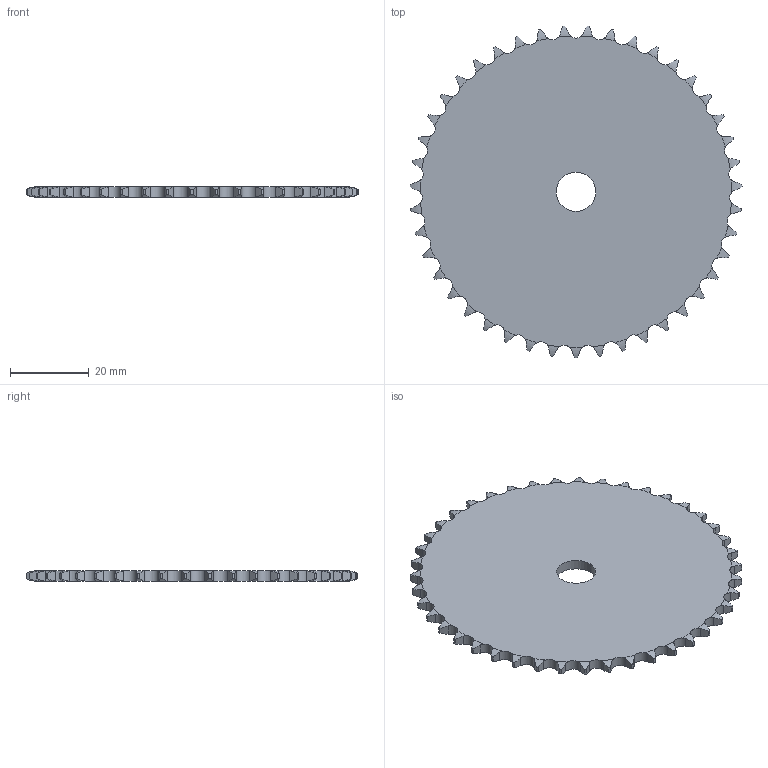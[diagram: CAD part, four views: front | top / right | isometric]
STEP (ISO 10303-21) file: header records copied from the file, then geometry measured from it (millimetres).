
FILE_DESCRIPTION((''),'2;1');
FILE_NAME('500-061-0043_PRT','2021-02-12T',('Brieden'),('Brieden'),'PRO/ENGINEER BY PARAMETRIC TECHNOLOGY CORPORATION, 2010160','PRO/ENGINEER BY PARAMETRIC TECHNOLOGY CORPORATION, 2010160','');
FILE_SCHEMA(('AUTOMOTIVE_DESIGN { 1 0 10303 214 1 1 1 1 }'));
Length unit declared in the file: millimetre
Products named in the file (1): 500-061-0043_PRT
Bounding box: 84.38 x 84.33 x 2.6 mm (x, y, z)
Volume: 12952.4 mm3; surface area: 11012.1 mm2
Topology: 1 solids, 1 shells, 262 faces, 780 edges, 520 vertices
Faces by surface type: cylinder 174, torus 86, plane 2
Entity records: 12170 total; most frequent: CARTESIAN_POINT 3143, ORIENTED_EDGE 1560, DIRECTION 1222, PRESENTATION_STYLE_ASSIGNMENT 781, STYLED_ITEM 781, CURVE_STYLE 780, EDGE_CURVE 780, AXIS2_PLACEMENT_3D 524
